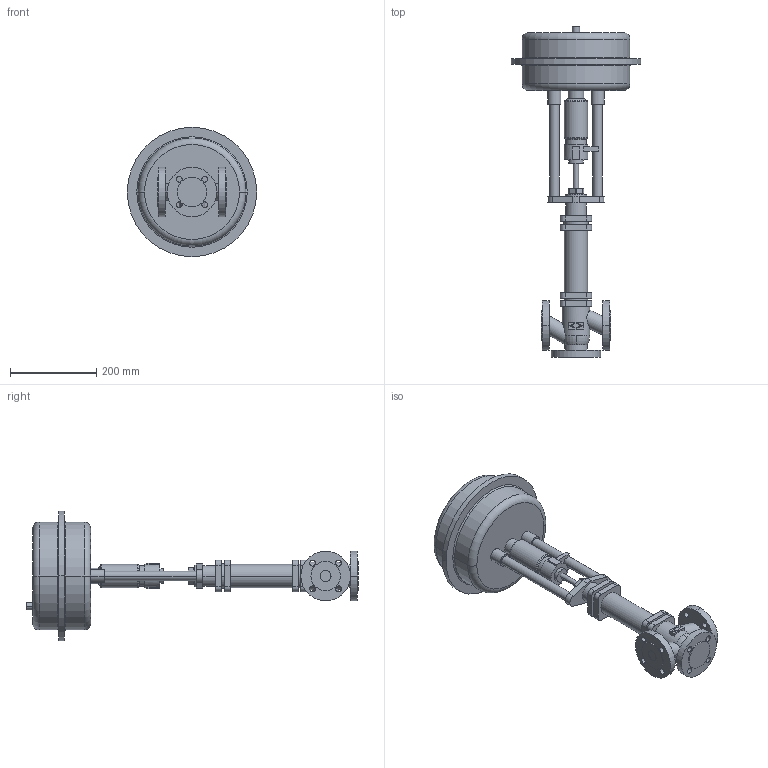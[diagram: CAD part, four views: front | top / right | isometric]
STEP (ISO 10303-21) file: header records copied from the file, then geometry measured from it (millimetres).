
FILE_DESCRIPTION(('OneSpaceDesigner STEP Export'),'2;1');
FILE_NAME('c000000754.stp','2006-09-21T 8:44:56',(''),(''),'OneSpace Designer STEP processor for AP214 (Solid Model)','OneSpace Designer 13.20A 18-Aug-2005 (C) CoCreate Software GmbH','');
FILE_SCHEMA(('AUTOMOTIVE_DESIGN { 1 0 10303 214 1 1 1 1 }'));
Length unit declared in the file: millimetre
Products named in the file (2): 1; 2
Bounding box: 300 x 769.6 x 300 mm (x, y, z)
Volume: 9071530.3 mm3; surface area: 501913.7 mm2
Topology: 2 solids, 2 shells, 236 faces, 579 edges, 381 vertices
Faces by surface type: cylinder 118, plane 96, torus 18, cone 4
Entity records: 6627 total; most frequent: CARTESIAN_POINT 1392, ORIENTED_EDGE 1158, DIRECTION 978, EDGE_CURVE 579, VERTEX_POINT 381, AXIS2_PLACEMENT_3D 352, EDGE_LOOP 294, VECTOR 274
